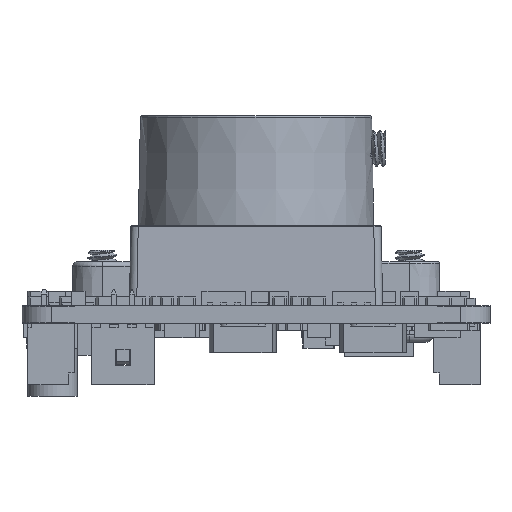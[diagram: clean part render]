
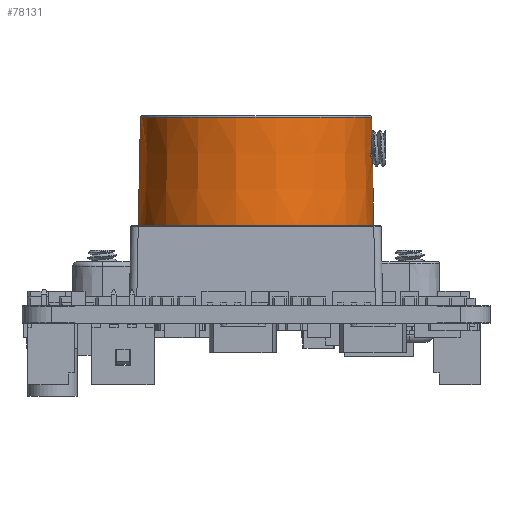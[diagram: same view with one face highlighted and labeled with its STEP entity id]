
A CAD part, front view. The second image highlights one B-rep face of the part: STEP entity #78131.
In plain terms, the highlighted conical face has half-angle 1.146 degrees and reference radius 7.976 mm.
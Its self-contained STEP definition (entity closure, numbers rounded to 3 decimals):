
#72690=CARTESIAN_POINT('',(0.,0.,7.5));
#72691=DIRECTION('',(0.,0.,1.));
#72692=DIRECTION('',(-1.,0.,0.));
#72693=AXIS2_PLACEMENT_3D('',#72690,#72691,#72692);
#72780=CARTESIAN_POINT('',(7.967,0.,11.655));
#72874=CARTESIAN_POINT('',(7.967,0.,11.655));
#72875=CARTESIAN_POINT('',(7.967,-0.1,
11.666));
#72876=CARTESIAN_POINT('',(7.962,-0.288,
11.707));
#72877=CARTESIAN_POINT('',(7.946,-0.539,
11.819));
#72878=CARTESIAN_POINT('',(7.927,-0.735,
11.962));
#72879=CARTESIAN_POINT('',(7.909,-0.88,
12.118));
#72880=CARTESIAN_POINT('',(7.894,-0.983,
12.285));
#72881=CARTESIAN_POINT('',(7.882,-1.045,
12.455));
#72882=CARTESIAN_POINT('',(7.875,-1.072,
12.638));
#72883=CARTESIAN_POINT('',(7.873,-1.057,
12.821));
#72884=CARTESIAN_POINT('',(7.875,-1.021,
12.937));
#72885=CARTESIAN_POINT('',(7.877,-0.996,
12.993));
#72887=DIRECTION('',(0.02,0.,-1.));
#72888=VECTOR('',#72887,4.156);
#72889=CARTESIAN_POINT('',(7.967,0.,11.655));
#72890=LINE('',#72889,#72888);
#72891=DIRECTION('',(-0.02,0.,
-1.));
#72892=VECTOR('',#72891,7.403);
#72893=CARTESIAN_POINT('',(-7.902,0.,
14.902));
#72894=LINE('',#72893,#72892);
#72895=CARTESIAN_POINT('',(0.,0.,14.902));
#72896=DIRECTION('',(0.,0.,-1.));
#72897=DIRECTION('',(1.,0.,0.));
#72898=AXIS2_PLACEMENT_3D('',#72895,#72896,#72897);
#72900=DIRECTION('',(0.02,0.,-1.));
#72901=VECTOR('',#72900,1.127);
#72902=CARTESIAN_POINT('',(7.902,0.,
14.902));
#72903=LINE('',#72902,#72901);
#72904=CARTESIAN_POINT('',(7.877,-0.996,
12.993));
#72905=CARTESIAN_POINT('',(7.878,-0.98,
13.056));
#72906=CARTESIAN_POINT('',(7.881,-0.937,
13.18));
#72907=CARTESIAN_POINT('',(7.889,-0.839,
13.349));
#72908=CARTESIAN_POINT('',(7.899,-0.711,
13.497));
#72909=CARTESIAN_POINT('',(7.909,-0.557,
13.618));
#72910=CARTESIAN_POINT('',(7.917,-0.383,
13.708));
#72911=CARTESIAN_POINT('',(7.923,-0.195,
13.763));
#72912=CARTESIAN_POINT('',(7.925,-0.065,13.775));
#72913=CARTESIAN_POINT('',(7.925,0.,13.775));
#77433=CARTESIAN_POINT('',(8.05,0.,7.5));
#77434=CARTESIAN_POINT('',(-8.05,0.,7.5));
#77435=VERTEX_POINT('',#77433);
#77436=VERTEX_POINT('',#77434);
#77626=CARTESIAN_POINT('',(-7.902,0.,14.902));
#77627=CARTESIAN_POINT('',(7.902,0.,14.902));
#77628=VERTEX_POINT('',#77626);
#77629=VERTEX_POINT('',#77627);
#77694=CARTESIAN_POINT('',(7.925,0.,13.775));
#77695=VERTEX_POINT('',#77694);
#77709=VERTEX_POINT('',#72780);
#77710=VERTEX_POINT('',#72885);
#78115=CARTESIAN_POINT('',(0.,0.,11.201));
#78116=DIRECTION('',(0.,0.,-1.));
#78117=DIRECTION('',(1.,0.,0.));
#78118=AXIS2_PLACEMENT_3D('',#78115,#78116,#78117);
#78119=CONICAL_SURFACE('',#78118,7.976,1.146);
#78120=ORIENTED_EDGE('',*,*,#78097,.F.);
#78121=ORIENTED_EDGE('',*,*,#77843,.T.);
#78122=ORIENTED_EDGE('',*,*,#77822,.F.);
#78123=ORIENTED_EDGE('',*,*,#77840,.F.);
#78125=ORIENTED_EDGE('',*,*,#78124,.F.);
#78126=ORIENTED_EDGE('',*,*,#77836,.T.);
#78128=ORIENTED_EDGE('',*,*,#78127,.F.);
#78129=EDGE_LOOP('',(#78120,#78121,#78122,#78123,#78125,#78126,#78128));
#78130=FACE_OUTER_BOUND('',#78129,.F.);
#72694=CIRCLE('',#72693,8.05);
#72886=B_SPLINE_CURVE_WITH_KNOTS('',3,(#72874,#72875,#72876,#72877,#72878,
#72879,#72880,#72881,#72882,#72883,#72884,#72885),.UNSPECIFIED.,.F.,.F.,(4,1,1,
1,1,1,1,1,1,4),(0.,0.111,0.222,0.333,
0.444,0.556,0.667,0.778,
0.889,1.),.UNSPECIFIED.);
#72899=CIRCLE('',#72898,7.902);
#72914=B_SPLINE_CURVE_WITH_KNOTS('',3,(#72904,#72905,#72906,#72907,#72908,
#72909,#72910,#72911,#72912,#72913),.UNSPECIFIED.,.F.,.F.,(4,1,1,1,1,1,1,4),(
0.,0.143,0.286,0.429,0.571,
0.714,0.857,1.),.UNSPECIFIED.);
#77822=EDGE_CURVE('',#77436,#77435,#72694,.T.);
#77836=EDGE_CURVE('',#77629,#77695,#72903,.T.);
#77840=EDGE_CURVE('',#77628,#77436,#72894,.T.);
#77843=EDGE_CURVE('',#77709,#77435,#72890,.T.);
#78097=EDGE_CURVE('',#77709,#77710,#72886,.T.);
#78124=EDGE_CURVE('',#77629,#77628,#72899,.T.);
#78127=EDGE_CURVE('',#77710,#77695,#72914,.T.);
#78131=ADVANCED_FACE('',(#78130),#78119,.T.);
